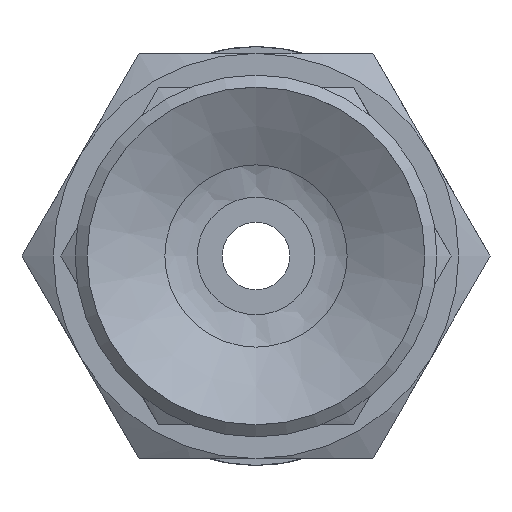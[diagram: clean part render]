
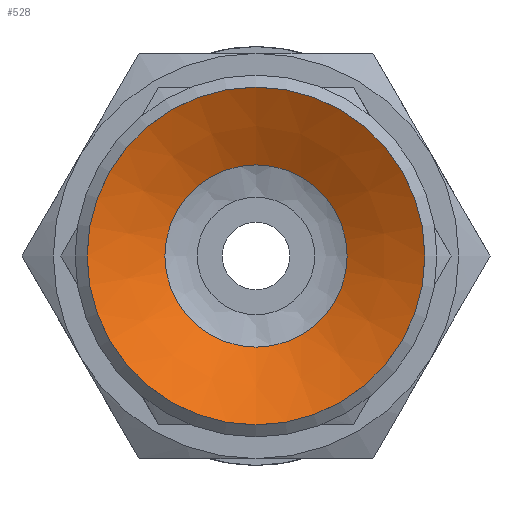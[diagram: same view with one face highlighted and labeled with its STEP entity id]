
A CAD part, front view. The second image highlights one B-rep face of the part: STEP entity #528.
In plain terms, the highlighted conical face has half-angle 61.39 degrees and reference radius 2.25 mm.
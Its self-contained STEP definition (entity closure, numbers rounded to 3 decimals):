
#528=ADVANCED_FACE('',(#776,#777),#778,.F.);
#776=FACE_BOUND('',#1131,.T.);
#777=FACE_OUTER_BOUND('',#1132,.T.);
#778=CONICAL_SURFACE('',#1133,2.25,1.071);
#1131=EDGE_LOOP('',(#2030));
#1132=EDGE_LOOP('',(#2031));
#1133=AXIS2_PLACEMENT_3D('',#2032,#2033,#2034);
#2030=ORIENTED_EDGE('',*,*,#2551,.T.);
#2031=ORIENTED_EDGE('',*,*,#2552,.T.);
#2032=CARTESIAN_POINT('',(0.0,1.5,0.0));
#2033=DIRECTION('',(-0.0,-1.0,0.));
#2034=DIRECTION('',(0.0,0.,-1.0));
#2551=EDGE_CURVE('',#2872,#2872,#2873,.T.);
#2552=EDGE_CURVE('',#2874,#2874,#2875,.T.);
#2872=VERTEX_POINT('',#3578);
#2873=CIRCLE('',#3579,2.698);
#2874=VERTEX_POINT('',#3580);
#2875=CIRCLE('',#3581,5.);
#3578=CARTESIAN_POINT('',(0.0,1.256,-2.698));
#3579=AXIS2_PLACEMENT_3D('',#4274,#4275,#4276);
#3580=CARTESIAN_POINT('',(0.0,0.,-5.));
#3581=AXIS2_PLACEMENT_3D('',#4277,#4278,#4279);
#4274=CARTESIAN_POINT('',(0.0,1.256,0.0));
#4275=DIRECTION('',(0.0,1.0,0.));
#4276=DIRECTION('',(0.0,0.,-1.0));
#4277=CARTESIAN_POINT('',(0.0,0.0,0.0));
#4278=DIRECTION('',(0.0,-1.0,0.));
#4279=DIRECTION('',(0.0,0.,-1.0));
